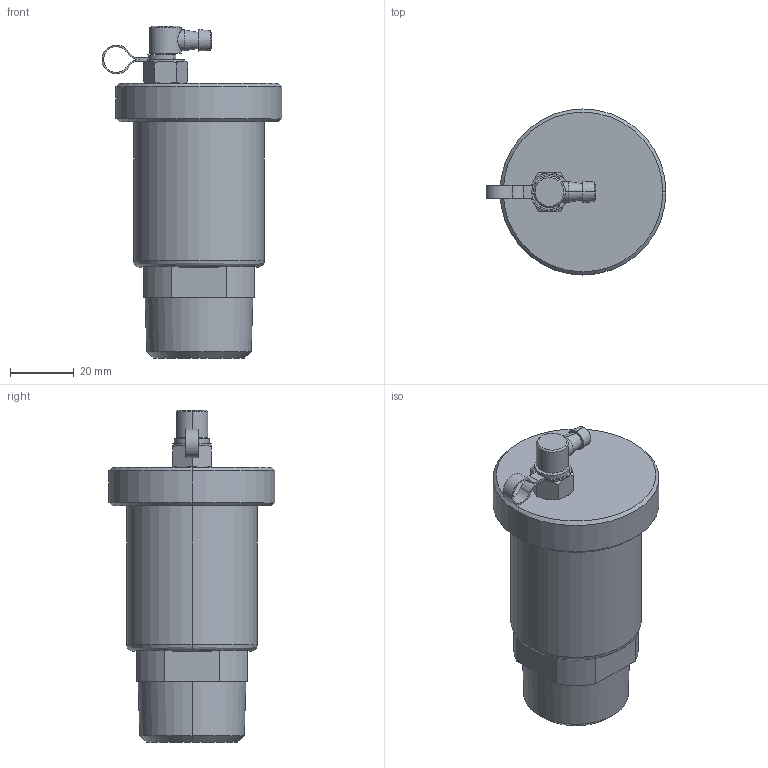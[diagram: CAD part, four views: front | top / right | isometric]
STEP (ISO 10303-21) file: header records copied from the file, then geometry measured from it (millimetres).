
FILE_DESCRIPTION( (''), '2;1');
FILE_NAME ('PC1027.10420.TA-22ML 25A_4536.stp','2025-07-29T11:39:43',(''),(''),'spGate 20.6.3 (****-****-****-****)','','');
FILE_SCHEMA (('AUTOMOTIVE_DESIGN'));
Length unit declared in the file: millimetre
Bounding box: 56.37 x 52 x 104 mm (x, y, z)
Volume: 114185.8 mm3; surface area: 15963.4 mm2
Topology: 1 solids, 1 shells, 82 faces, 206 edges, 133 vertices
Faces by surface type: bspline 30, plane 28, cylinder 24
Entity records: 4390 total; most frequent: CARTESIAN_POINT 935, ORIENTED_EDGE 412, DIRECTION 337, COLOUR_RGB 289, PRESENTATION_STYLE_ASSIGNMENT 289, STYLED_ITEM 289, EDGE_CURVE 206, DRAUGHTING_PRE_DEFINED_CURVE_FONT 206
